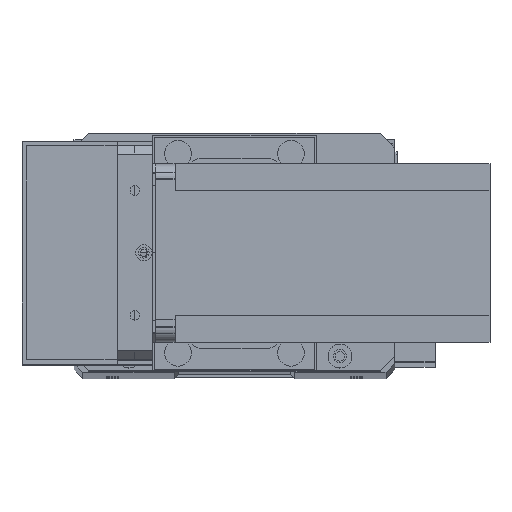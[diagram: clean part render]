
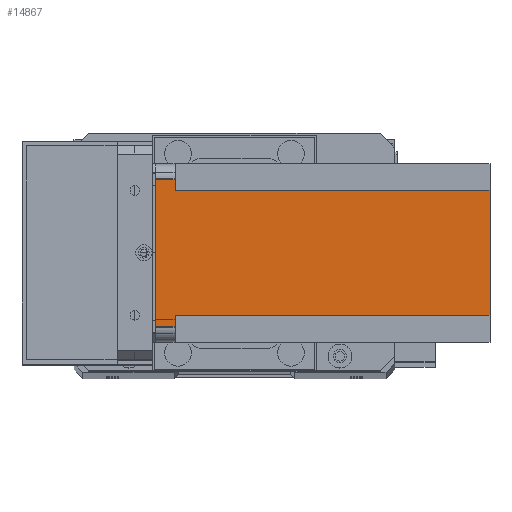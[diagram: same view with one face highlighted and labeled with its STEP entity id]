
A CAD part, top view. The second image highlights one B-rep face of the part: STEP entity #14867.
In plain terms, the highlighted planar face has unit normal (0, 0, 1) as drawn and (1, 0, 0) by its records, which use the part's own axes.
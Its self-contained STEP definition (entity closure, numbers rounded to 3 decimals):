
#335 = CARTESIAN_POINT ( 'NONE',  ( 60., 55., -112.5 ) ) ;
#1559 = CARTESIAN_POINT ( 'NONE',  ( 60., 0., -112.5 ) ) ;
#1733 = CARTESIAN_POINT ( 'NONE',  ( 60., 0., -112.5 ) ) ;
#2299 = DIRECTION ( 'NONE',  ( 0., 0., -1. ) ) ;
#2588 = VECTOR ( 'NONE', #16261, 1000. ) ;
#4206 = CARTESIAN_POINT ( 'NONE',  ( 60., 9., -112.5 ) ) ;
#4407 = CARTESIAN_POINT ( 'NONE',  ( 60., 0., 0. ) ) ;
#4921 = FACE_OUTER_BOUND ( 'NONE', #24247, .T. ) ;
#6290 = CARTESIAN_POINT ( 'NONE',  ( 60., 0., -6.5 ) ) ;
#6355 = DIRECTION ( 'NONE',  ( 0., 1., 0. ) ) ;
#6531 = PLANE ( 'NONE',  #12321 ) ;
#7095 = EDGE_CURVE ( 'NONE', #30130, #22173, #17002, .T. ) ;
#7120 = CARTESIAN_POINT ( 'NONE',  ( 60., 55., 0. ) ) ;
#8720 = DIRECTION ( 'NONE',  ( 0., -1., 0. ) ) ;
#9134 = VERTEX_POINT ( 'NONE', #26412 ) ;
#9541 = VECTOR ( 'NONE', #18578, 1000. ) ;
#9584 = VERTEX_POINT ( 'NONE', #11473 ) ;
#9590 = VERTEX_POINT ( 'NONE', #23359 ) ;
#9614 = CARTESIAN_POINT ( 'NONE',  ( 60., 5., -112.5 ) ) ;
#10284 = CARTESIAN_POINT ( 'NONE',  ( 60., 60., -6.5 ) ) ;
#10318 = VERTEX_POINT ( 'NONE', #18973 ) ;
#10918 = VECTOR ( 'NONE', #14679, 1000. ) ;
#11062 = CARTESIAN_POINT ( 'NONE',  ( 60., 51., -112.5 ) ) ;
#11473 = CARTESIAN_POINT ( 'NONE',  ( 60., 9., -6.5 ) ) ;
#11923 = LINE ( 'NONE', #6290, #29460 ) ;
#12321 = AXIS2_PLACEMENT_3D ( 'NONE', #1733, #28062, #13770 ) ;
#12545 = EDGE_CURVE ( 'NONE', #9134, #18889, #21890, .T. ) ;
#12677 = DIRECTION ( 'NONE',  ( 0., -1., 0. ) ) ;
#12710 = ORIENTED_EDGE ( 'NONE', *, *, #15879, .F. ) ;
#12842 = ORIENTED_EDGE ( 'NONE', *, *, #26563, .T. ) ;
#13229 = EDGE_CURVE ( 'NONE', #9590, #18889, #16651, .T. ) ;
#13516 = VECTOR ( 'NONE', #12677, 1000. ) ;
#13770 = DIRECTION ( 'NONE',  ( 0., 1., 0. ) ) ;
#14290 = LINE ( 'NONE', #10284, #13516 ) ;
#14679 = DIRECTION ( 'NONE',  ( 0., 0., 1. ) ) ;
#14867 = ADVANCED_FACE ( 'NONE', ( #4921 ), #6531, .T. ) ;
#15312 = LINE ( 'NONE', #4206, #2588 ) ;
#15560 = VECTOR ( 'NONE', #6355, 1000. ) ;
#15788 = EDGE_CURVE ( 'NONE', #28733, #22173, #23608, .T. ) ;
#15879 = EDGE_CURVE ( 'NONE', #28733, #9590, #14290, .T. ) ;
#16261 = DIRECTION ( 'NONE',  ( 0., 0., 1. ) ) ;
#16651 = LINE ( 'NONE', #30335, #9541 ) ;
#17002 = LINE ( 'NONE', #4407, #29681 ) ;
#17167 = ORIENTED_EDGE ( 'NONE', *, *, #12545, .T. ) ;
#18217 = LINE ( 'NONE', #9614, #30142 ) ;
#18578 = DIRECTION ( 'NONE',  ( 0., 0., -1. ) ) ;
#18776 = DIRECTION ( 'NONE',  ( 0., 1., 0. ) ) ;
#18889 = VERTEX_POINT ( 'NONE', #11062 ) ;
#18973 = CARTESIAN_POINT ( 'NONE',  ( 60., 5., -6.5 ) ) ;
#19773 = EDGE_CURVE ( 'NONE', #9584, #10318, #11923, .T. ) ;
#21890 = LINE ( 'NONE', #1559, #15560 ) ;
#22173 = VERTEX_POINT ( 'NONE', #7120 ) ;
#22180 = ORIENTED_EDGE ( 'NONE', *, *, #25313, .F. ) ;
#23359 = CARTESIAN_POINT ( 'NONE',  ( 60., 51., -6.5 ) ) ;
#23608 = LINE ( 'NONE', #335, #10918 ) ;
#24247 = EDGE_LOOP ( 'NONE', ( #12710, #28525, #26142, #12842, #28734, #22180, #17167, #24488 ) ) ;
#24488 = ORIENTED_EDGE ( 'NONE', *, *, #13229, .F. ) ;
#25027 = CARTESIAN_POINT ( 'NONE',  ( 60., 5., 0. ) ) ;
#25313 = EDGE_CURVE ( 'NONE', #9134, #9584, #15312, .T. ) ;
#26142 = ORIENTED_EDGE ( 'NONE', *, *, #7095, .F. ) ;
#26412 = CARTESIAN_POINT ( 'NONE',  ( 60., 9., -112.5 ) ) ;
#26563 = EDGE_CURVE ( 'NONE', #30130, #10318, #18217, .T. ) ;
#28062 = DIRECTION ( 'NONE',  ( 1., 0., 0. ) ) ;
#28525 = ORIENTED_EDGE ( 'NONE', *, *, #15788, .T. ) ;
#28681 = CARTESIAN_POINT ( 'NONE',  ( 60., 55., -6.5 ) ) ;
#28733 = VERTEX_POINT ( 'NONE', #28681 ) ;
#28734 = ORIENTED_EDGE ( 'NONE', *, *, #19773, .F. ) ;
#29460 = VECTOR ( 'NONE', #8720, 1000. ) ;
#29681 = VECTOR ( 'NONE', #18776, 1000. ) ;
#30130 = VERTEX_POINT ( 'NONE', #25027 ) ;
#30142 = VECTOR ( 'NONE', #2299, 1000. ) ;
#30335 = CARTESIAN_POINT ( 'NONE',  ( 60., 51., -112.5 ) ) ;
